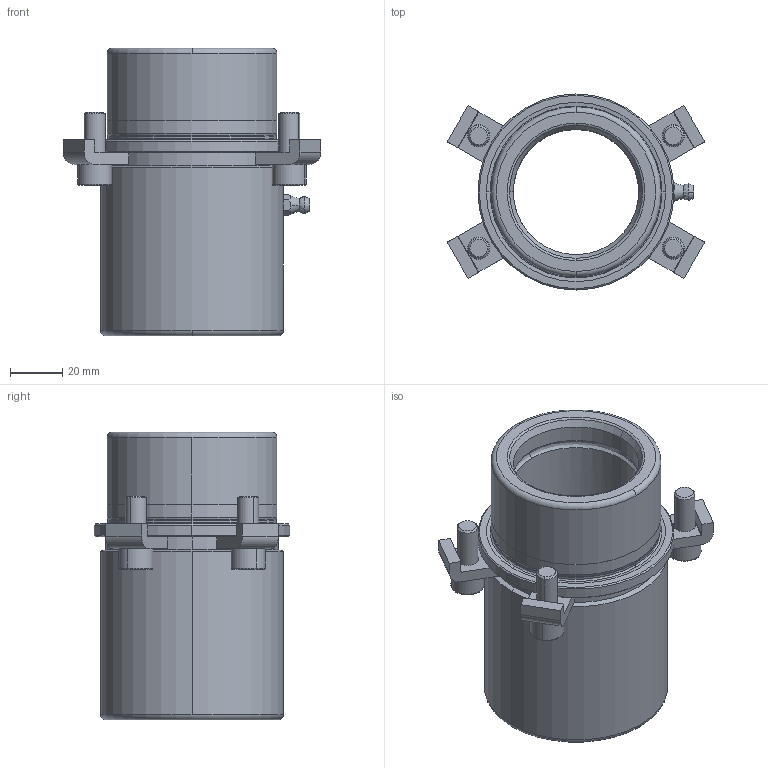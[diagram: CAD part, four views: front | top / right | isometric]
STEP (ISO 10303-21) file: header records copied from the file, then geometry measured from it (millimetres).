
FILE_DESCRIPTION((''),'2;1');
FILE_NAME('B10_048_075.stp','2008-11-06T09:03:24',(''),(''),'Mechanical Desktop 2009','Mechanical Desktop 2009',', , ');
FILE_SCHEMA(('CONFIG_CONTROL_DESIGN'));
Length unit declared in the file: millimetre
Products named in the file (2): Product; blmdl1
Assembly tree (1 placements, depth 2):
  Product
    blmdl1
Bounding box: 98.54 x 75 x 110 mm (x, y, z)
Volume: 217322.2 mm3; surface area: 55222.9 mm2
Topology: 10 solids, 10 shells, 202 faces, 505 edges, 332 vertices
Faces by surface type: plane 82, cylinder 60, cone 24, bspline 18, torus 18
Entity records: 7380 total; most frequent: CARTESIAN_POINT 2302, DIRECTION 1111, ORIENTED_EDGE 1002, EDGE_CURVE 501, AXIS2_PLACEMENT_3D 441, VERTEX_POINT 330, CIRCLE 255, VECTOR 229
